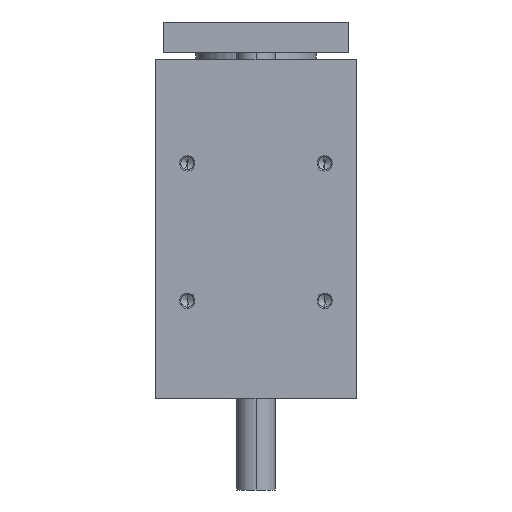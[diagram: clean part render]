
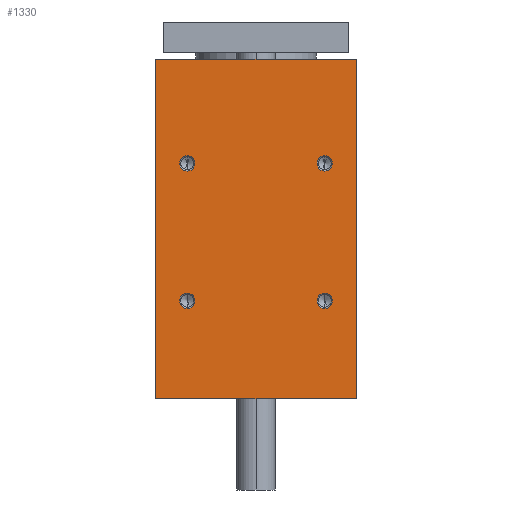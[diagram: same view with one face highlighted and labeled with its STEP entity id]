
A CAD part, left-side view. The second image highlights one B-rep face of the part: STEP entity #1330.
In plain terms, the highlighted planar face has unit normal (-1, 0, 0).
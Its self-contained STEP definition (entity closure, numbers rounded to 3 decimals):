
#45 = CARTESIAN_POINT ( 'NONE',  ( -106.5, -44.5, 19.5 ) ) ;
#154 = AXIS2_PLACEMENT_3D ( 'NONE', #6520, #4970, #7851 ) ;
#267 = CARTESIAN_POINT ( 'NONE',  ( -106.5, -65., -128. ) ) ;
#285 = CARTESIAN_POINT ( 'NONE',  ( -106.5, -44.5, 29.5 ) ) ;
#301 = CIRCLE ( 'NONE', #8072, 5. ) ;
#341 = DIRECTION ( 'NONE',  ( 0., -1., 0. ) ) ;
#477 = ORIENTED_EDGE ( 'NONE', *, *, #2667, .T. ) ;
#484 = CARTESIAN_POINT ( 'NONE',  ( -106.5, 65., 92. ) ) ;
#657 = VECTOR ( 'NONE', #341, 1000. ) ;
#784 = AXIS2_PLACEMENT_3D ( 'NONE', #5206, #7486, #9143 ) ;
#823 = EDGE_CURVE ( 'NONE', #4986, #8789, #5667, .T. ) ;
#830 = CARTESIAN_POINT ( 'NONE',  ( -106.5, 44.5, -64.5 ) ) ;
#884 = CARTESIAN_POINT ( 'NONE',  ( -106.5, 44.5, 29.5 ) ) ;
#942 = LINE ( 'NONE', #267, #6973 ) ;
#977 = DIRECTION ( 'NONE',  ( 0., 1., 0. ) ) ;
#1053 = LINE ( 'NONE', #8324, #7022 ) ;
#1092 = CIRCLE ( 'NONE', #8251, 5. ) ;
#1128 = DIRECTION ( 'NONE',  ( 0., 0., 1. ) ) ;
#1330 = ADVANCED_FACE ( 'NONE', ( #1751, #1892, #9347, #4031, #5406 ), #1697, .F. ) ;
#1359 = ORIENTED_EDGE ( 'NONE', *, *, #9535, .T. ) ;
#1397 = CIRCLE ( 'NONE', #6231, 5. ) ;
#1498 = CARTESIAN_POINT ( 'NONE',  ( -106.5, 44.5, -64.5 ) ) ;
#1697 = PLANE ( 'NONE',  #8113 ) ;
#1751 = FACE_OUTER_BOUND ( 'NONE', #4776, .T. ) ;
#1892 = FACE_BOUND ( 'NONE', #7056, .T. ) ;
#1943 = CARTESIAN_POINT ( 'NONE',  ( -106.5, 44.5, -69.5 ) ) ;
#1993 = CARTESIAN_POINT ( 'NONE',  ( -106.5, 44.5, 19.5 ) ) ;
#2008 = VERTEX_POINT ( 'NONE', #884 ) ;
#2171 = CIRCLE ( 'NONE', #784, 5. ) ;
#2205 = EDGE_CURVE ( 'NONE', #8789, #2435, #9438, .T. ) ;
#2266 = CARTESIAN_POINT ( 'NONE',  ( -106.5, -65., 92. ) ) ;
#2312 = DIRECTION ( 'NONE',  ( 1., 0., 0. ) ) ;
#2313 = CIRCLE ( 'NONE', #5444, 5. ) ;
#2435 = VERTEX_POINT ( 'NONE', #2266 ) ;
#2486 = VERTEX_POINT ( 'NONE', #45 ) ;
#2620 = CARTESIAN_POINT ( 'NONE',  ( -106.5, 44.5, -59.5 ) ) ;
#2667 = EDGE_CURVE ( 'NONE', #3174, #6194, #7830, .T. ) ;
#2746 = DIRECTION ( 'NONE',  ( 1., 0., 0. ) ) ;
#2779 = EDGE_CURVE ( 'NONE', #2486, #4940, #3461, .T. ) ;
#2960 = ORIENTED_EDGE ( 'NONE', *, *, #6840, .T. ) ;
#2991 = ORIENTED_EDGE ( 'NONE', *, *, #2779, .T. ) ;
#3174 = VERTEX_POINT ( 'NONE', #3843 ) ;
#3461 = CIRCLE ( 'NONE', #6737, 5. ) ;
#3498 = CARTESIAN_POINT ( 'NONE',  ( -106.5, 65., 92. ) ) ;
#3790 = DIRECTION ( 'NONE',  ( 1., 0., 0. ) ) ;
#3843 = CARTESIAN_POINT ( 'NONE',  ( -106.5, -44.5, -69.5 ) ) ;
#3888 = ORIENTED_EDGE ( 'NONE', *, *, #823, .F. ) ;
#3892 = EDGE_CURVE ( 'NONE', #4986, #6476, #1053, .T. ) ;
#3974 = DIRECTION ( 'NONE',  ( 0., -1., 0. ) ) ;
#3983 = EDGE_LOOP ( 'NONE', ( #5680, #8498 ) ) ;
#4031 = FACE_BOUND ( 'NONE', #9265, .T. ) ;
#4069 = CARTESIAN_POINT ( 'NONE',  ( -106.5, -44.5, -64.5 ) ) ;
#4354 = DIRECTION ( 'NONE',  ( 0., 0., -1. ) ) ;
#4505 = CIRCLE ( 'NONE', #154, 5. ) ;
#4776 = EDGE_LOOP ( 'NONE', ( #8056, #9497, #3888, #6250 ) ) ;
#4940 = VERTEX_POINT ( 'NONE', #285 ) ;
#4970 = DIRECTION ( 'NONE',  ( 1., 0., 0. ) ) ;
#4986 = VERTEX_POINT ( 'NONE', #6951 ) ;
#5206 = CARTESIAN_POINT ( 'NONE',  ( -106.5, 44.5, 24.5 ) ) ;
#5406 = FACE_BOUND ( 'NONE', #3983, .T. ) ;
#5444 = AXIS2_PLACEMENT_3D ( 'NONE', #1498, #6619, #6664 ) ;
#5582 = CARTESIAN_POINT ( 'NONE',  ( -106.5, -65., -128. ) ) ;
#5615 = CARTESIAN_POINT ( 'NONE',  ( -106.5, 65., -128. ) ) ;
#5667 = LINE ( 'NONE', #5615, #8779 ) ;
#5680 = ORIENTED_EDGE ( 'NONE', *, *, #9409, .T. ) ;
#5893 = VERTEX_POINT ( 'NONE', #1993 ) ;
#5934 = DIRECTION ( 'NONE',  ( 1., 0., 0. ) ) ;
#5997 = ORIENTED_EDGE ( 'NONE', *, *, #8819, .T. ) ;
#6053 = ORIENTED_EDGE ( 'NONE', *, *, #8936, .T. ) ;
#6194 = VERTEX_POINT ( 'NONE', #7738 ) ;
#6231 = AXIS2_PLACEMENT_3D ( 'NONE', #8994, #2312, #8270 ) ;
#6250 = ORIENTED_EDGE ( 'NONE', *, *, #3892, .T. ) ;
#6476 = VERTEX_POINT ( 'NONE', #5582 ) ;
#6520 = CARTESIAN_POINT ( 'NONE',  ( -106.5, -44.5, -64.5 ) ) ;
#6619 = DIRECTION ( 'NONE',  ( 1., 0., 0. ) ) ;
#6622 = DIRECTION ( 'NONE',  ( 0., 0., -1. ) ) ;
#6664 = DIRECTION ( 'NONE',  ( 0., 0., -1. ) ) ;
#6737 = AXIS2_PLACEMENT_3D ( 'NONE', #7185, #2746, #4354 ) ;
#6782 = EDGE_CURVE ( 'NONE', #6476, #2435, #942, .T. ) ;
#6840 = EDGE_CURVE ( 'NONE', #7725, #7748, #301, .T. ) ;
#6951 = CARTESIAN_POINT ( 'NONE',  ( -106.5, 65., -128. ) ) ;
#6973 = VECTOR ( 'NONE', #8443, 1000. ) ;
#7007 = CARTESIAN_POINT ( 'NONE',  ( -106.5, 65., -128. ) ) ;
#7022 = VECTOR ( 'NONE', #3974, 1000. ) ;
#7056 = EDGE_LOOP ( 'NONE', ( #5997, #477 ) ) ;
#7132 = DIRECTION ( 'NONE',  ( 1., 0., 0. ) ) ;
#7185 = CARTESIAN_POINT ( 'NONE',  ( -106.5, -44.5, 24.5 ) ) ;
#7286 = CARTESIAN_POINT ( 'NONE',  ( -106.5, 44.5, 24.5 ) ) ;
#7486 = DIRECTION ( 'NONE',  ( 1., 0., 0. ) ) ;
#7654 = DIRECTION ( 'NONE',  ( 1., 0., 0. ) ) ;
#7725 = VERTEX_POINT ( 'NONE', #2620 ) ;
#7738 = CARTESIAN_POINT ( 'NONE',  ( -106.5, -44.5, -59.5 ) ) ;
#7748 = VERTEX_POINT ( 'NONE', #1943 ) ;
#7830 = CIRCLE ( 'NONE', #9069, 5. ) ;
#7851 = DIRECTION ( 'NONE',  ( 0., 0., -1. ) ) ;
#7875 = DIRECTION ( 'NONE',  ( 0., 0., -1. ) ) ;
#8056 = ORIENTED_EDGE ( 'NONE', *, *, #6782, .T. ) ;
#8072 = AXIS2_PLACEMENT_3D ( 'NONE', #830, #3790, #6622 ) ;
#8076 = DIRECTION ( 'NONE',  ( 0., 0., -1. ) ) ;
#8113 = AXIS2_PLACEMENT_3D ( 'NONE', #7007, #7654, #977 ) ;
#8251 = AXIS2_PLACEMENT_3D ( 'NONE', #7286, #5934, #8076 ) ;
#8270 = DIRECTION ( 'NONE',  ( 0., 0., -1. ) ) ;
#8324 = CARTESIAN_POINT ( 'NONE',  ( -106.5, 65., -128. ) ) ;
#8443 = DIRECTION ( 'NONE',  ( 0., 0., 1. ) ) ;
#8498 = ORIENTED_EDGE ( 'NONE', *, *, #9334, .T. ) ;
#8779 = VECTOR ( 'NONE', #1128, 1000. ) ;
#8789 = VERTEX_POINT ( 'NONE', #3498 ) ;
#8819 = EDGE_CURVE ( 'NONE', #6194, #3174, #4505, .T. ) ;
#8936 = EDGE_CURVE ( 'NONE', #7748, #7725, #2313, .T. ) ;
#8994 = CARTESIAN_POINT ( 'NONE',  ( -106.5, -44.5, 24.5 ) ) ;
#9069 = AXIS2_PLACEMENT_3D ( 'NONE', #4069, #7132, #7875 ) ;
#9143 = DIRECTION ( 'NONE',  ( 0., 0., -1. ) ) ;
#9265 = EDGE_LOOP ( 'NONE', ( #1359, #2991 ) ) ;
#9334 = EDGE_CURVE ( 'NONE', #5893, #2008, #1092, .T. ) ;
#9347 = FACE_BOUND ( 'NONE', #9530, .T. ) ;
#9409 = EDGE_CURVE ( 'NONE', #2008, #5893, #2171, .T. ) ;
#9438 = LINE ( 'NONE', #484, #657 ) ;
#9497 = ORIENTED_EDGE ( 'NONE', *, *, #2205, .F. ) ;
#9530 = EDGE_LOOP ( 'NONE', ( #2960, #6053 ) ) ;
#9535 = EDGE_CURVE ( 'NONE', #4940, #2486, #1397, .T. ) ;
